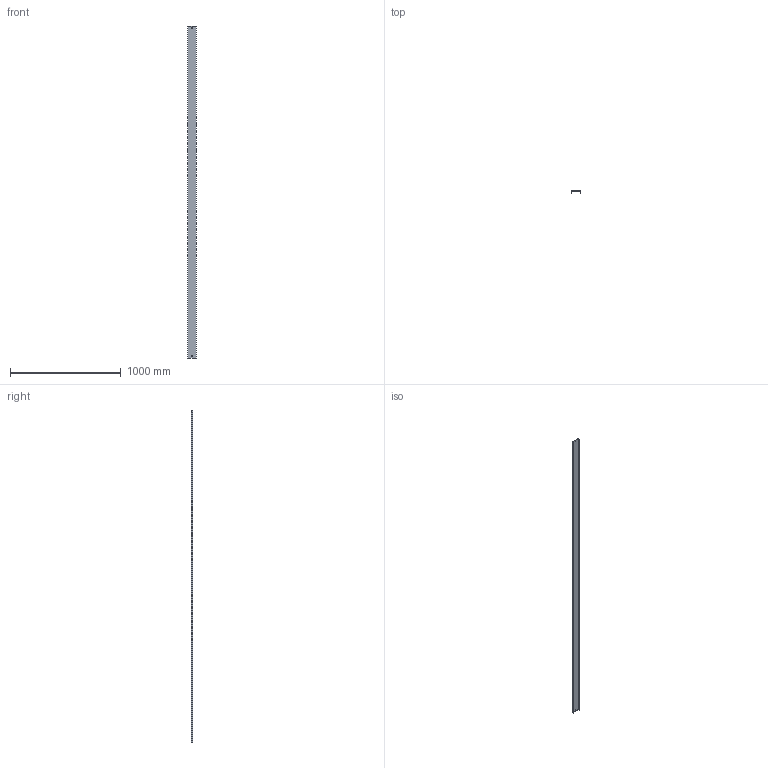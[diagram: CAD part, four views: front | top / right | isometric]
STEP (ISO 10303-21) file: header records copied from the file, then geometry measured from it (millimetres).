
FILE_DESCRIPTION (( 'STEP AP214' ), '1' );
FILE_NAME ('OCF_075.step', '2025-07-16T09:09:39', ( '' ), ( '' ), 'SwSTEP 2.0', 'SolidWorks 2023', '' );
FILE_SCHEMA (( 'AUTOMOTIVE_DESIGN' ));
Length unit declared in the file: millimetre
Products named in the file (1): OCF_075
Bounding box: 77 x 17 x 3000 mm (x, y, z)
Volume: 326916 mm3; surface area: 660102 mm2
Topology: 1 solids, 1 shells, 18 faces, 48 edges, 32 vertices
Faces by surface type: plane 18
Entity records: 583 total; most frequent: CARTESIAN_POINT 99, ORIENTED_EDGE 96, DIRECTION 86, EDGE_CURVE 48, VECTOR 48, LINE 48, VERTEX_POINT 32, EDGE_LOOP 22
